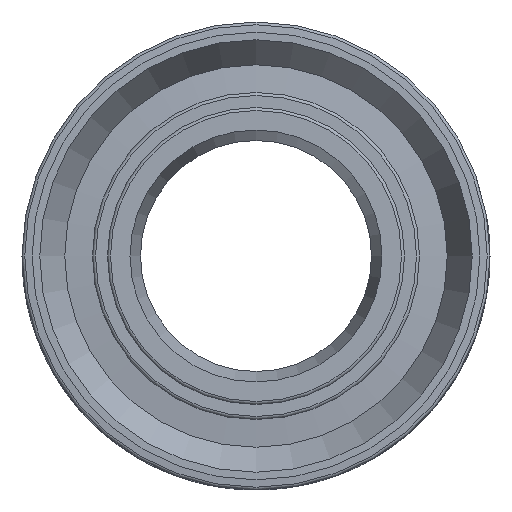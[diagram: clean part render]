
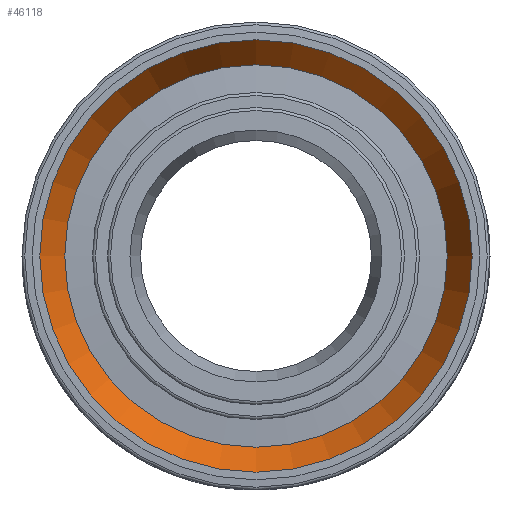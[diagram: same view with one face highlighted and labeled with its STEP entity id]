
A CAD part, left-side view. The second image highlights one B-rep face of the part: STEP entity #46118.
In plain terms, the highlighted conical face has half-angle 29.862 degrees and reference radius 13.582 mm.
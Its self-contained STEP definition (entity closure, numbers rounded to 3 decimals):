
#67=CONICAL_SURFACE('',#48089,13.583,0.521);
#7836=FACE_OUTER_BOUND('',#10586,.T.);
#10586=EDGE_LOOP('',(#42797,#42798,#42799,#42800,#42801,#42802));
#13669=LINE('',#106291,#16658);
#16658=VECTOR('',#55132,13.583);
#17534=CIRCLE('',#48087,12.75);
#17535=CIRCLE('',#48088,12.75);
#17536=CIRCLE('',#48090,14.415);
#17537=CIRCLE('',#48091,14.415);
#22268=VERTEX_POINT('',#106284);
#22269=VERTEX_POINT('',#106286);
#22270=VERTEX_POINT('',#106290);
#22271=VERTEX_POINT('',#106292);
#29172=EDGE_CURVE('',#22269,#22268,#17534,.T.);
#29173=EDGE_CURVE('',#22268,#22269,#17535,.T.);
#29174=EDGE_CURVE('',#22268,#22270,#13669,.T.);
#29175=EDGE_CURVE('',#22271,#22270,#17536,.T.);
#29176=EDGE_CURVE('',#22270,#22271,#17537,.T.);
#42797=ORIENTED_EDGE('',*,*,#29172,.T.);
#42798=ORIENTED_EDGE('',*,*,#29174,.T.);
#42799=ORIENTED_EDGE('',*,*,#29175,.F.);
#42800=ORIENTED_EDGE('',*,*,#29176,.F.);
#42801=ORIENTED_EDGE('',*,*,#29174,.F.);
#42802=ORIENTED_EDGE('',*,*,#29173,.T.);
#46118=ADVANCED_FACE('',(#7836),#67,.F.);
#48087=AXIS2_PLACEMENT_3D('',#106287,#55126,#55127);
#48088=AXIS2_PLACEMENT_3D('',#106288,#55128,#55129);
#48089=AXIS2_PLACEMENT_3D('',#106289,#55130,#55131);
#48090=AXIS2_PLACEMENT_3D('',#106293,#55133,#55134);
#48091=AXIS2_PLACEMENT_3D('',#106294,#55135,#55136);
#55126=DIRECTION('center_axis',(1.,0.,0.));
#55127=DIRECTION('ref_axis',(0.,0.,-1.));
#55128=DIRECTION('center_axis',(1.,0.,0.));
#55129=DIRECTION('ref_axis',(0.,0.,-1.));
#55130=DIRECTION('center_axis',(-1.,0.,0.));
#55131=DIRECTION('ref_axis',(0.,1.,0.));
#55132=DIRECTION('',(-0.867,-0.498,0.));
#55133=DIRECTION('center_axis',(1.,0.,0.));
#55134=DIRECTION('ref_axis',(0.,0.,-1.));
#55135=DIRECTION('center_axis',(1.,0.,0.));
#55136=DIRECTION('ref_axis',(0.,0.,-1.));
#106284=CARTESIAN_POINT('',(-33.416,-12.75,0.));
#106286=CARTESIAN_POINT('',(-33.416,12.75,0.));
#106287=CARTESIAN_POINT('Origin',(-33.416,0.,0.));
#106288=CARTESIAN_POINT('Origin',(-33.416,0.,0.));
#106289=CARTESIAN_POINT('Origin',(-34.866,0.,0.));
#106290=CARTESIAN_POINT('',(-36.316,-14.415,0.));
#106291=CARTESIAN_POINT('',(-34.866,-13.583,0.));
#106292=CARTESIAN_POINT('',(-36.316,14.415,0.));
#106293=CARTESIAN_POINT('Origin',(-36.316,0.,0.));
#106294=CARTESIAN_POINT('Origin',(-36.316,0.,0.));
